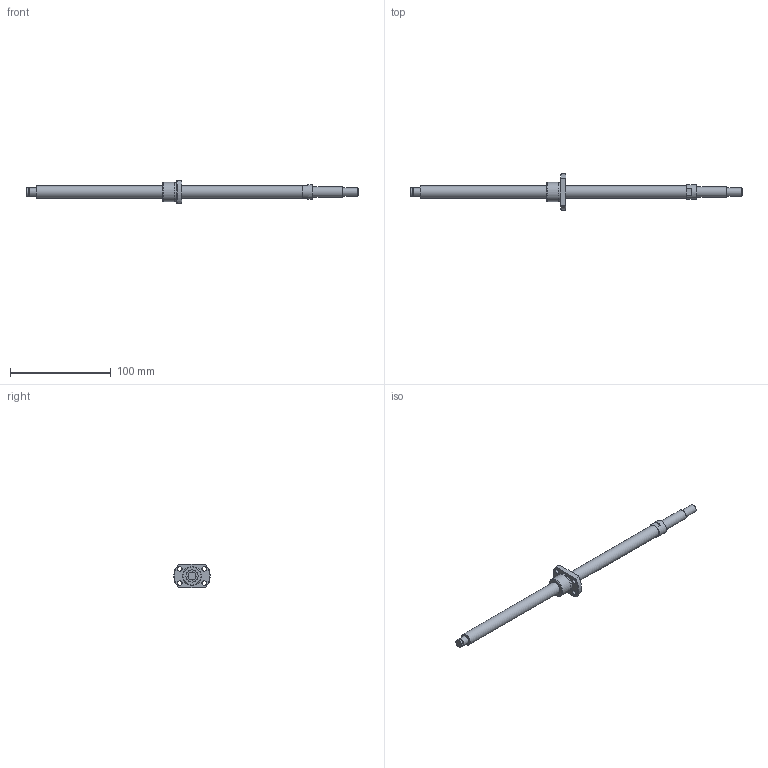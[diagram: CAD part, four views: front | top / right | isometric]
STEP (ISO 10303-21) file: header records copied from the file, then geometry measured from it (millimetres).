
FILE_DESCRIPTION(/* description */ ('STEP AP214'),/* implementation_level */ '2;1');
FILE_NAME(/* name */ 'PSRT1202K-261R330C5B0X(B126)',/* time_stamp */ '2026-08-06T16:15:16+02:00',/* author */ ('License CC BY-ND 4.0'),/* organization */ ('CADENAS'),/* preprocessor_version */ 'ST-DEVELOPER v20',/* originating_system */ 'PARTsolutions',/* authorisation */ ' ');
FILE_SCHEMA (('AUTOMOTIVE_DESIGN {1 0 10303 214 3 1 1}'));
Length unit declared in the file: millimetre
Products named in the file (3): PSRT1202K-261R330C5B0X(B126); PSRT1202KB330_shaft; PSR1202K_nut
Assembly tree (2 placements, depth 2):
  PSRT1202K-261R330C5B0X(B126)
    PSRT1202KB330_shaft
    PSR1202K_nut
Bounding box: 330 x 36 x 23 mm (x, y, z)
Volume: 40359.4 mm3; surface area: 15804.7 mm2
Topology: 2 solids, 2 shells, 44 faces, 91 edges, 58 vertices
Faces by surface type: plane 19, cylinder 16, cone 8, torus 1
Full cylindrical faces by diameter (mm): 4.5 x4, 7.6 x1, 8 x3, 10 x1, 12 x2, 14 x1, 18.6 x1, 19 x1
Entity records: 1175 total; most frequent: DIRECTION 202, CARTESIAN_POINT 199, ORIENTED_EDGE 142, AXIS2_PLACEMENT_3D 92, EDGE_LOOP 80, FACE_BOUND 80, EDGE_CURVE 71, VERTEX_POINT 57
